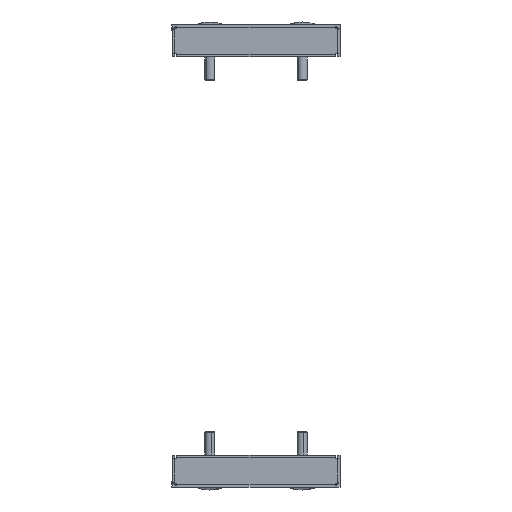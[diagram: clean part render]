
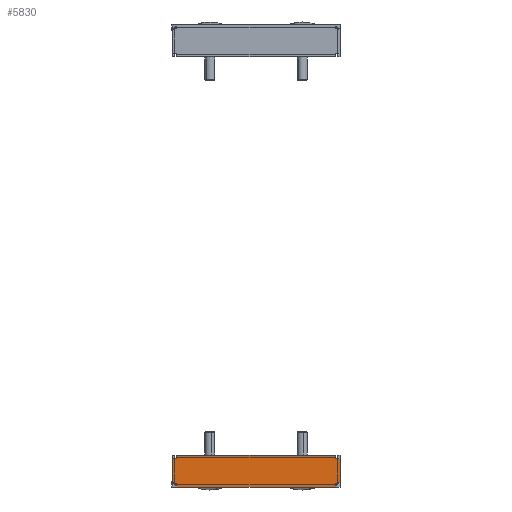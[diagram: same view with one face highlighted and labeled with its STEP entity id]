
A CAD part, left-side view. The second image highlights one B-rep face of the part: STEP entity #5830.
In plain terms, the highlighted planar face has unit normal (-1, 0, 0).
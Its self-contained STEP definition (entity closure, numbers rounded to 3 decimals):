
#49 = LINE ( 'NONE', #1009, #7727 ) ;
#238 = VERTEX_POINT ( 'NONE', #351 ) ;
#311 = CARTESIAN_POINT ( 'NONE',  ( -399.5, 47.3, -1.5 ) ) ;
#324 = LINE ( 'NONE', #5771, #5549 ) ;
#333 = CARTESIAN_POINT ( 'NONE',  ( -399.5, 0., 17.5 ) ) ;
#334 = ORIENTED_EDGE ( 'NONE', *, *, #7618, .T. ) ;
#351 = CARTESIAN_POINT ( 'NONE',  ( -399.5, -50., 0.777 ) ) ;
#434 = DIRECTION ( 'NONE',  ( 0., -1., 0. ) ) ;
#501 = CARTESIAN_POINT ( 'NONE',  ( -399.5, -49.649, 0.758 ) ) ;
#514 = VERTEX_POINT ( 'NONE', #5584 ) ;
#533 = EDGE_CURVE ( 'NONE', #6554, #8030, #9713, .T. ) ;
#545 = AXIS2_PLACEMENT_3D ( 'NONE', #6992, #6293, #5381 ) ;
#573 = ORIENTED_EDGE ( 'NONE', *, *, #9777, .T. ) ;
#632 = VERTEX_POINT ( 'NONE', #4174 ) ;
#779 = EDGE_CURVE ( 'NONE', #5391, #632, #6132, .T. ) ;
#783 = VERTEX_POINT ( 'NONE', #7534 ) ;
#840 = DIRECTION ( 'NONE',  ( 0., 0., 1. ) ) ;
#866 = LINE ( 'NONE', #5454, #5311 ) ;
#934 = ORIENTED_EDGE ( 'NONE', *, *, #8436, .F. ) ;
#1009 = CARTESIAN_POINT ( 'NONE',  ( -399.5, -47.3, 15.4 ) ) ;
#1044 = DIRECTION ( 'NONE',  ( 0., -1., 0. ) ) ;
#1124 = LINE ( 'NONE', #5654, #3755 ) ;
#1161 = CARTESIAN_POINT ( 'NONE',  ( -399.5, 47.3, 15.4 ) ) ;
#1251 = FACE_OUTER_BOUND ( 'NONE', #9902, .T. ) ;
#1381 = ORIENTED_EDGE ( 'NONE', *, *, #2157, .T. ) ;
#1394 = ORIENTED_EDGE ( 'NONE', *, *, #779, .F. ) ;
#1454 = ORIENTED_EDGE ( 'NONE', *, *, #3332, .T. ) ;
#1745 = CARTESIAN_POINT ( 'NONE',  ( -399.5, 47.9, 0.6 ) ) ;
#1898 = LINE ( 'NONE', #2047, #7225 ) ;
#1999 = ORIENTED_EDGE ( 'NONE', *, *, #5397, .F. ) ;
#2047 = CARTESIAN_POINT ( 'NONE',  ( -399.5, 0., -1.5 ) ) ;
#2083 = VERTEX_POINT ( 'NONE', #2506 ) ;
#2138 = CARTESIAN_POINT ( 'NONE',  ( -399.5, -47.3, -1.5 ) ) ;
#2157 = EDGE_CURVE ( 'NONE', #6454, #7829, #1898, .T. ) ;
#2425 = VERTEX_POINT ( 'NONE', #5011 ) ;
#2506 = CARTESIAN_POINT ( 'NONE',  ( -399.5, -47.3, 15.4 ) ) ;
#2547 = B_SPLINE_CURVE_WITH_KNOTS ( 'NONE', 3,
 ( #4141, #7211, #3382, #8825, #501, #6502 ),
 .UNSPECIFIED., .F., .F.,
 ( 4, 2, 4 ),
 ( 0.006, 0.007, 0.008 ),
 .UNSPECIFIED. ) ;
#2702 = VERTEX_POINT ( 'NONE', #6113 ) ;
#2739 = VECTOR ( 'NONE', #8257, 1000. ) ;
#2824 = DIRECTION ( 'NONE',  ( 0., 0., -1. ) ) ;
#2832 = EDGE_CURVE ( 'NONE', #2425, #2702, #866, .T. ) ;
#2899 = EDGE_CURVE ( 'NONE', #514, #238, #5653, .T. ) ;
#2903 = VECTOR ( 'NONE', #8261, 1000. ) ;
#2970 = ORIENTED_EDGE ( 'NONE', *, *, #2832, .T. ) ;
#3096 = VECTOR ( 'NONE', #434, 1000. ) ;
#3165 = LINE ( 'NONE', #5578, #3582 ) ;
#3313 = ORIENTED_EDGE ( 'NONE', *, *, #8003, .T. ) ;
#3317 = CARTESIAN_POINT ( 'NONE',  ( -399.5, -47.3, 17.5 ) ) ;
#3332 = EDGE_CURVE ( 'NONE', #2083, #6095, #49, .T. ) ;
#3363 = LINE ( 'NONE', #333, #3096 ) ;
#3382 = CARTESIAN_POINT ( 'NONE',  ( -399.5, -48.599, 0.674 ) ) ;
#3445 = VECTOR ( 'NONE', #2824, 1000. ) ;
#3572 = CARTESIAN_POINT ( 'NONE',  ( -399.5, -50., 0. ) ) ;
#3582 = VECTOR ( 'NONE', #840, 1000. ) ;
#3630 = VECTOR ( 'NONE', #5330, 1000. ) ;
#3755 = VECTOR ( 'NONE', #4194, 1000. ) ;
#3961 = CARTESIAN_POINT ( 'NONE',  ( -399.5, 47.9, 15.4 ) ) ;
#4082 = DIRECTION ( 'NONE',  ( 0., 0., 1. ) ) ;
#4126 = EDGE_CURVE ( 'NONE', #8052, #783, #3165, .T. ) ;
#4141 = CARTESIAN_POINT ( 'NONE',  ( -399.5, -47.9, 0.6 ) ) ;
#4174 = CARTESIAN_POINT ( 'NONE',  ( -399.5, -47.3, 0.6 ) ) ;
#4194 = DIRECTION ( 'NONE',  ( 0., 0., -1. ) ) ;
#4235 = CARTESIAN_POINT ( 'NONE',  ( -399.5, 47.9, 0.6 ) ) ;
#4348 = EDGE_CURVE ( 'NONE', #783, #6095, #3363, .T. ) ;
#4476 = LINE ( 'NONE', #7352, #3630 ) ;
#4502 = ORIENTED_EDGE ( 'NONE', *, *, #2899, .F. ) ;
#4685 = LINE ( 'NONE', #9224, #8426 ) ;
#5011 = CARTESIAN_POINT ( 'NONE',  ( -399.5, 50., 15.4 ) ) ;
#5095 = EDGE_CURVE ( 'NONE', #8030, #6454, #1124, .T. ) ;
#5179 = CARTESIAN_POINT ( 'NONE',  ( -399.5, -47.9, 0.6 ) ) ;
#5311 = VECTOR ( 'NONE', #6262, 1000. ) ;
#5315 = CARTESIAN_POINT ( 'NONE',  ( -399.5, -47.9, 15.4 ) ) ;
#5327 = CARTESIAN_POINT ( 'NONE',  ( -399.5, 47.9, 15.4 ) ) ;
#5330 = DIRECTION ( 'NONE',  ( 0., 1., 0. ) ) ;
#5381 = DIRECTION ( 'NONE',  ( 0., 0., -1. ) ) ;
#5391 = VERTEX_POINT ( 'NONE', #9369 ) ;
#5397 = EDGE_CURVE ( 'NONE', #7949, #514, #4685, .T. ) ;
#5427 = CARTESIAN_POINT ( 'NONE',  ( -399.5, 49.299, 0.734 ) ) ;
#5454 = CARTESIAN_POINT ( 'NONE',  ( -399.5, 50., 0. ) ) ;
#5520 = CARTESIAN_POINT ( 'NONE',  ( -399.5, 48.599, 0.674 ) ) ;
#5549 = VECTOR ( 'NONE', #5720, 1000. ) ;
#5578 = CARTESIAN_POINT ( 'NONE',  ( -399.5, 47.3, 0. ) ) ;
#5584 = CARTESIAN_POINT ( 'NONE',  ( -399.5, -50., 15.4 ) ) ;
#5651 = ORIENTED_EDGE ( 'NONE', *, *, #5095, .T. ) ;
#5653 = LINE ( 'NONE', #3572, #2903 ) ;
#5654 = CARTESIAN_POINT ( 'NONE',  ( -399.5, 47.3, 0.6 ) ) ;
#5720 = DIRECTION ( 'NONE',  ( 0., 1., 0. ) ) ;
#5771 = CARTESIAN_POINT ( 'NONE',  ( -399.5, -47.9, 15.4 ) ) ;
#5801 = LINE ( 'NONE', #8061, #3445 ) ;
#5830 = ADVANCED_FACE ( 'NONE', ( #1251 ), #9210, .F. ) ;
#5837 = DIRECTION ( 'NONE',  ( 0., -1., 0. ) ) ;
#5973 = ORIENTED_EDGE ( 'NONE', *, *, #7003, .F. ) ;
#6095 = VERTEX_POINT ( 'NONE', #3317 ) ;
#6113 = CARTESIAN_POINT ( 'NONE',  ( -399.5, 50., 0.777 ) ) ;
#6132 = LINE ( 'NONE', #5179, #2739 ) ;
#6262 = DIRECTION ( 'NONE',  ( 0., 0., -1. ) ) ;
#6293 = DIRECTION ( 'NONE',  ( 1., 0., 0. ) ) ;
#6454 = VERTEX_POINT ( 'NONE', #311 ) ;
#6502 = CARTESIAN_POINT ( 'NONE',  ( -399.5, -50., 0.777 ) ) ;
#6552 = CARTESIAN_POINT ( 'NONE',  ( -399.5, 47.3, 0.6 ) ) ;
#6554 = VERTEX_POINT ( 'NONE', #4235 ) ;
#6786 = CARTESIAN_POINT ( 'NONE',  ( -399.5, 50., 0.777 ) ) ;
#6992 = CARTESIAN_POINT ( 'NONE',  ( -399.5, 0., 0. ) ) ;
#7003 = EDGE_CURVE ( 'NONE', #632, #7829, #5801, .T. ) ;
#7211 = CARTESIAN_POINT ( 'NONE',  ( -399.5, -48.249, 0.637 ) ) ;
#7220 = ORIENTED_EDGE ( 'NONE', *, *, #4126, .F. ) ;
#7225 = VECTOR ( 'NONE', #1044, 1000. ) ;
#7352 = CARTESIAN_POINT ( 'NONE',  ( -399.5, 47.9, 15.4 ) ) ;
#7356 = B_SPLINE_CURVE_WITH_KNOTS ( 'NONE', 3,
 ( #6786, #9107, #5427, #5520, #8643, #1745 ),
 .UNSPECIFIED., .F., .F.,
 ( 4, 2, 4 ),
 ( 0.006, 0.007, 0.008 ),
 .UNSPECIFIED. ) ;
#7364 = ORIENTED_EDGE ( 'NONE', *, *, #533, .T. ) ;
#7393 = EDGE_CURVE ( 'NONE', #2702, #6554, #7356, .T. ) ;
#7463 = ORIENTED_EDGE ( 'NONE', *, *, #7393, .T. ) ;
#7486 = DIRECTION ( 'NONE',  ( 0., -1., 0. ) ) ;
#7534 = CARTESIAN_POINT ( 'NONE',  ( -399.5, 47.3, 17.5 ) ) ;
#7535 = VERTEX_POINT ( 'NONE', #3961 ) ;
#7618 = EDGE_CURVE ( 'NONE', #7949, #2083, #324, .T. ) ;
#7727 = VECTOR ( 'NONE', #4082, 1000. ) ;
#7829 = VERTEX_POINT ( 'NONE', #2138 ) ;
#7949 = VERTEX_POINT ( 'NONE', #5315 ) ;
#8003 = EDGE_CURVE ( 'NONE', #5391, #238, #2547, .T. ) ;
#8030 = VERTEX_POINT ( 'NONE', #6552 ) ;
#8052 = VERTEX_POINT ( 'NONE', #1161 ) ;
#8061 = CARTESIAN_POINT ( 'NONE',  ( -399.5, -47.3, 0. ) ) ;
#8257 = DIRECTION ( 'NONE',  ( 0., 1., 0. ) ) ;
#8261 = DIRECTION ( 'NONE',  ( 0., 0., -1. ) ) ;
#8426 = VECTOR ( 'NONE', #8518, 1000. ) ;
#8436 = EDGE_CURVE ( 'NONE', #7535, #8052, #9153, .T. ) ;
#8518 = DIRECTION ( 'NONE',  ( 0., -1., 0. ) ) ;
#8643 = CARTESIAN_POINT ( 'NONE',  ( -399.5, 48.249, 0.637 ) ) ;
#8825 = CARTESIAN_POINT ( 'NONE',  ( -399.5, -49.299, 0.734 ) ) ;
#9107 = CARTESIAN_POINT ( 'NONE',  ( -399.5, 49.649, 0.758 ) ) ;
#9153 = LINE ( 'NONE', #5327, #9586 ) ;
#9210 = PLANE ( 'NONE',  #545 ) ;
#9224 = CARTESIAN_POINT ( 'NONE',  ( -399.5, 0., 15.4 ) ) ;
#9331 = VECTOR ( 'NONE', #5837, 1000. ) ;
#9369 = CARTESIAN_POINT ( 'NONE',  ( -399.5, -47.9, 0.6 ) ) ;
#9565 = ORIENTED_EDGE ( 'NONE', *, *, #4348, .F. ) ;
#9586 = VECTOR ( 'NONE', #7486, 1000. ) ;
#9615 = CARTESIAN_POINT ( 'NONE',  ( -399.5, 47.9, 0.6 ) ) ;
#9713 = LINE ( 'NONE', #9615, #9331 ) ;
#9777 = EDGE_CURVE ( 'NONE', #7535, #2425, #4476, .T. ) ;
#9902 = EDGE_LOOP ( 'NONE', ( #334, #1454, #9565, #7220, #934, #573, #2970, #7463, #7364, #5651, #1381, #5973, #1394, #3313, #4502, #1999 ) ) ;
